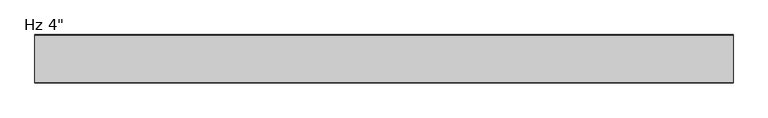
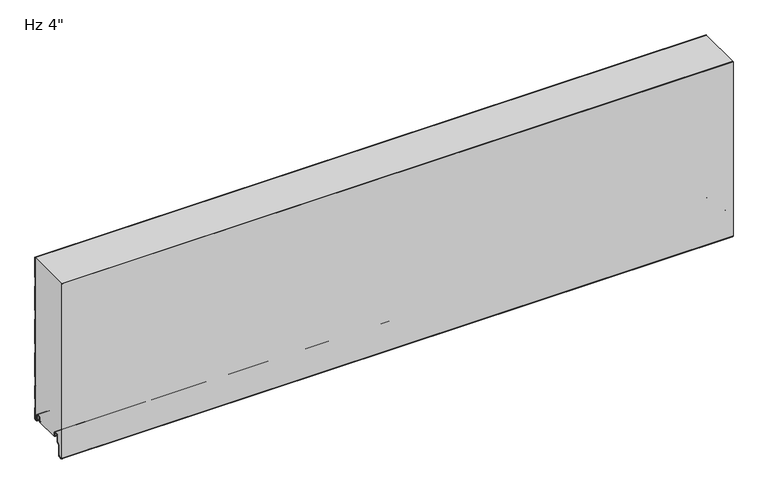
"""IFC4 building model written with IfcOpenShell, lengths in millimetres: plate geometry."""

from ifc_helpers import new_model, si_unit, point, frame, frame_2d, origin, place, context, project, spatial, polyline, circle_curve, trimmed, segment, composite_curve, outline, extrude, source, transform, mapped, element, save
from ifc_brep_helpers import plane_surface, cylinder_surface, revolved_surface, advanced_brep


def plate_74843514(model_context):
    return source(origin(), model_context, "Body", "SolidModel", [
        extrude(outline(composite_curve([segment(trimmed(circle_curve(frame_2d((-98.0297607, -32.4521176)), 3.5702393), [point((-97.7184903, -36.008762))], [point((-101.6, -32.4521154))], False, "CARTESIAN"), True, "CONTINUOUS"), segment(polyline([(-101.6, -32.4521154), (-101.5997439, 368.0), (-100.5993606, 368.0), (-100.5993606, -32.509446)]), True, "CONTINUOUS"), segment(trimmed(circle_curve(frame_2d((-98.0297607, -32.4521176)), 2.5702393), [point((-100.5993606, -32.509446))], [point((-97.8056751, -35.0125699))], True, "CARTESIAN"), True, "CONTINUOUS"), segment(polyline([(-97.8056751, -35.0125699), (-92.8238542, -34.5765709)]), True, "CONTINUOUS"), segment(trimmed(circle_curve(frame_2d((-93.3052448, -31.9198392)), 2.6999926), [point((-92.8238542, -34.5765709))], [point((-90.6052522, -31.9198392))], True, "CARTESIAN"), True, "CONTINUOUS"), segment(polyline([(-90.6052522, -31.9198392), (-90.6052522, -9.8247096), (-85.1031811, -4.3226385)]), True, "CONTINUOUS"), segment(trimmed(circle_curve(frame_2d((-86.3052588, -3.1205608)), 1.6999946), [point((-85.1031811, -4.3226385))], [point((-84.6052642, -3.1205608))], True, "CARTESIAN"), True, "CONTINUOUS"), segment(polyline([(-84.6052642, -3.1205608), (-84.6052642, 8.6903283)]), True, "CONTINUOUS"), segment(trimmed(circle_curve(frame_2d((-81.2552689, 8.6903283)), 3.3499953), [point((-84.6052642, 8.6903283))], [point((-81.2552689, 12.0403236))], False, "CARTESIAN"), True, "CONTINUOUS"), segment(polyline([(-81.2552689, 12.0403236), (-76.8552777, 12.0403236)]), True, "CONTINUOUS"), segment(trimmed(circle_curve(frame_2d((-76.8552777, 8.6903283)), 3.3499953), [point((-76.8552777, 12.0403236))], [point((-73.5052824, 8.6903283))], False, "CARTESIAN"), True, "CONTINUOUS"), segment(polyline([(-73.5052824, 8.6903283), (-73.5052824, 5.9912173), (-72.1068035, 5.9912173), (-72.1068035, 2.2328239)]), True, "CONTINUOUS"), segment(trimmed(circle_curve(frame_2d((-73.3068002, 2.2313092)), 1.1999976), [point((-72.1068035, 2.2328239))], [point((-73.2762782, 1.0316999))], False, "CARTESIAN"), True, "CONTINUOUS"), segment(trimmed(circle_curve(frame_2d((-73.3068002, 2.2313092)), 1.1999976), [point((-73.2762782, 1.0316999))], [point((-74.5052824, 2.1710221))], False, "CARTESIAN"), True, "CONTINUOUS"), segment(polyline([(-74.5052824, 2.1710221), (-74.5052824, 8.6903283)]), True, "CONTINUOUS"), segment(trimmed(circle_curve(frame_2d((-76.8552777, 8.6903283)), 2.3499953), [point((-74.5052824, 8.6903283))], [point((-76.8552777, 11.0403236))], True, "CARTESIAN"), True, "CONTINUOUS"), segment(polyline([(-76.8552777, 11.0403236), (-81.2552689, 11.0403236)]), True, "CONTINUOUS"), segment(trimmed(circle_curve(frame_2d((-81.2552689, 8.6903283)), 2.3499953), [point((-81.2552689, 11.0403236))], [point((-83.6052642, 8.6903283))], True, "CARTESIAN"), True, "CONTINUOUS"), segment(polyline([(-83.6052642, 8.6903283), (-83.6052642, -3.1205608)]), True, "CONTINUOUS"), segment(trimmed(circle_curve(frame_2d((-86.3052588, -3.1205608)), 2.6999946), [point((-83.6052642, -3.1205608))], [point((-84.3960743, -5.0297453))], False, "CARTESIAN"), True, "CONTINUOUS"), segment(polyline([(-84.3960743, -5.0297453), (-89.2244918, -9.8581627)]), True, "CONTINUOUS"), segment(trimmed(circle_curve(frame_2d((-88.3052548, -10.7773997)), 1.2999974), [point((-89.2244918, -9.8581627))], [point((-89.6052522, -10.7773997))], True, "CARTESIAN"), True, "CONTINUOUS"), segment(polyline([(-89.6052522, -10.7773997), (-89.6052522, -31.9198392)]), True, "CONTINUOUS"), segment(trimmed(circle_curve(frame_2d((-93.3052448, -31.9198392)), 3.6999926), [point((-89.6052522, -31.9198392))], [point((-92.6944437, -35.5690675))], False, "CARTESIAN"), True, "CONTINUOUS"), segment(polyline([(-92.6944437, -35.5690675), (-97.7184903, -36.008762)]), True, "CONTINUOUS")], self_intersect=False)), frame((-730.0, 0.0, 0.0), z_axis=(1.0, 0.0, 0.0), x_axis=(0.0, 1.0, 0.0)), (0.0, 0.0, 1.0), 1460.0),
        advanced_brep(
        [(-730.0, -17.0015159, 2.0313088), (-730.0, -18.0015191, 1.0313115), (-730.0, -19.0015105, 2.0313088), (-730.0, -19.0015105, 6.0315124), (-730.0, -18.0015159, 6.0315124), (-730.0, -18.0015159, 8.7237222), (-730.0, -14.7015202, 12.0237179), (-730.0, -10.301529, 12.0237179), (-730.0, -7.0015335, 8.7237224), (-730.0, -7.0015335, -1.6962565), (-730.0, -5.2315393, -3.4662507), (-730.0, -0.9999916, -3.4662507), (-730.0, -0.9999916, 21.034026), (-730.0, -2.2002307, 22.4196686), (-730.0, -2.2002307, 41.7948349), (-730.0, -1.0, 43.1804678), (-730.0, -1.0, 71.8338832), (-730.0, -2.2002307, 73.2195162), (-730.0, -2.2002307, 92.5946825), (-730.0, -1.0, 93.9803154), (-730.0, -1.0, 148.0337308), (-730.0, -2.2002307, 149.4193638), (-730.0, -2.2002307, 168.7945301), (-730.0, -1.0, 170.180163), (-730.0, -1.0, 224.2335784), (-730.0, -2.2002307, 225.6192114), (-730.0, -2.2002307, 244.9943777), (-730.0, -1.0, 246.3800106), (-730.0, -1.0, 300.433426), (-730.0, -2.2002307, 301.819059), (-730.0, -2.2002307, 321.1942253), (-730.0, -1.0, 322.5798582), (-730.0, -1.0, 368.0), (-730.0, 0.0, 368.0), (-730.0, 0.0, 322.7290094), (-730.0, -0.3417885, 321.8123925), (-730.0, -1.2002307, 320.8213449), (-730.0, -1.2002307, 302.1919394), (-730.0, -0.3417885, 301.2008918), (-730.0, 0.0, 300.2842749), (-730.0, 0.0, 246.5291618), (-730.0, -0.3417885, 245.6125449), (-730.0, -1.2002307, 244.6214973), (-730.0, -1.2002307, 225.9920918), (-730.0, -0.3417885, 225.0010442), (-730.0, 0.0, 224.0844273), (-730.0, 0.0, 170.3293142), (-730.0, -0.3417885, 169.4126973), (-730.0, -1.2002307, 168.4216497), (-730.0, -1.2002307, 149.7922442), (-730.0, -0.3417885, 148.8011966), (-730.0, 0.0, 147.8845797), (-730.0, 0.0, 94.1294666), (-730.0, -0.3417885, 93.2128497), (-730.0, -1.2002307, 92.2218021), (-730.0, -1.2002307, 73.5923966), (-730.0, -0.3417885, 72.601349), (-730.0, 0.0, 71.6847321), (-730.0, 0.0, 43.329619), (-730.0, -0.3417885, 42.4130021), (-730.0, -1.2002307, 41.4219545), (-730.0, -1.2002307, 22.792549), (-730.0, -0.3417885, 21.8015014), (-730.0, 0.0, 20.8847931), (-730.0, 8.4e-06, -3.0662545), (-730.0, -1.3999878, -4.4662507), (-730.0, -5.2315393, -4.4662507), (-730.0, -8.0015335, -1.6962565), (-730.0, -8.0015335, 8.7237224), (-730.0, -10.301529, 11.0237179), (-730.0, -14.7015202, 11.0237179), (-730.0, -17.0015159, 8.7237222), (730.0, -17.0015159, 2.0313088), (730.0, -17.0015159, 8.7237222), (730.0, -14.7015202, 11.0237179), (730.0, -10.301529, 11.0237179), (730.0, -8.0015335, 8.7237224), (730.0, -8.0015335, -1.6962565), (730.0, -5.2315393, -4.4662507), (730.0, -1.3999878, -4.4662507), (730.0, 8.4e-06, -3.0662545), (730.0, 8.4e-06, 20.8848845), (730.0, -0.3417885, 21.8015014), (730.0, -1.2002307, 22.792549), (730.0, -1.2002307, 41.4219545), (730.0, -0.3417885, 42.4130021), (730.0, 0.0, 43.329619), (730.0, 0.0, 71.6847321), (730.0, -0.3417885, 72.601349), (730.0, -1.2002307, 73.5923966), (730.0, -1.2002307, 92.2218021), (730.0, -0.3417885, 93.2128497), (730.0, 0.0, 94.1294666), (730.0, 0.0, 147.8845797), (730.0, -0.3417885, 148.8011966), (730.0, -1.2002307, 149.7922442), (730.0, -1.2002307, 168.4216497), (730.0, -0.3417885, 169.4126973), (730.0, 0.0, 170.3293142), (730.0, 0.0, 224.0844273), (730.0, -0.3417885, 225.0010442), (730.0, -1.2002307, 225.9920918), (730.0, -1.2002307, 244.6214973), (730.0, -0.3417885, 245.6125449), (730.0, 0.0, 246.5291618), (730.0, 0.0, 300.2842749), (730.0, -0.3417885, 301.2008918), (730.0, -1.2002307, 302.1919394), (730.0, -1.2002307, 320.8213449), (730.0, -0.3417885, 321.8123925), (730.0, 0.0, 322.7290094), (730.0, 0.0, 368.0), (730.0, -1.0, 368.0), (730.0, -1.0, 322.5798582), (730.0, -2.2002307, 321.1942253), (730.0, -2.2002307, 301.819059), (730.0, -1.0, 300.433426), (730.0, -1.0, 246.3800106), (730.0, -2.2002307, 244.9943777), (730.0, -2.2002307, 225.6192114), (730.0, -1.0, 224.2335784), (730.0, -1.0, 170.180163), (730.0, -2.2002307, 168.7945301), (730.0, -2.2002307, 149.4193638), (730.0, -1.0, 148.0337308), (730.0, -1.0, 93.9803154), (730.0, -2.2002307, 92.5946825), (730.0, -2.2002307, 73.2195162), (730.0, -1.0, 71.8338832), (730.0, -1.0, 43.1804678), (730.0, -2.2002307, 41.7948349), (730.0, -2.2002307, 22.4196686), (730.0, -0.9999916, 21.034026), (730.0, -0.9999916, -3.4662507), (730.0, -5.2315393, -3.4662507), (730.0, -7.0015335, -1.6962565), (730.0, -7.0015335, 8.7237224), (730.0, -10.301529, 12.0237179), (730.0, -14.7015202, 12.0237179), (730.0, -18.0015159, 8.7237222), (730.0, -18.0015159, 6.0315124), (730.0, -19.0015105, 6.0315124), (730.0, -19.0015105, 2.0313088), (730.0, -18.0015192, 1.0313116)],
        [
            (0, 1, circle_curve(frame((-730.0, -18.0015132, 2.0313088), z_axis=(-1.0, 0.0, 0.0), x_axis=(0.0, 0.0, 1.0)), 0.9999973)),
            (1, 2, circle_curve(frame((-730.0, -18.0015133, 2.0313088), z_axis=(-1.0, 0.0, 0.0), x_axis=(0.0, 0.0, 1.0)), 0.9999972)),
            (2, 3),
            (3, 4),
            (4, 5),
            (5, 6, circle_curve(frame((-730.0, -14.7015202, 8.7237222), z_axis=(-1.0, 0.0, 0.0), x_axis=(0.0, 0.0, 1.0)), 3.2999957)),
            (6, 7),
            (7, 8, circle_curve(frame((-730.0, -10.301529, 8.7237224), z_axis=(-1.0, 0.0, 0.0), x_axis=(0.0, 0.0, 1.0)), 3.2999955)),
            (8, 9),
            (9, 10, circle_curve(frame((-730.0, -5.2315393, -1.6962565), z_axis=(1.0, 0.0, 0.0), x_axis=(0.0, 0.0, 1.0)), 1.7699942)),
            (10, 11),
            (11, 12),
            (12, 13),
            (13, 14),
            (14, 15),
            (15, 16),
            (16, 17),
            (17, 18),
            (18, 19),
            (19, 20),
            (20, 21),
            (21, 22),
            (22, 23),
            (23, 24),
            (24, 25),
            (25, 26),
            (26, 27),
            (27, 28),
            (28, 29),
            (29, 30),
            (30, 31),
            (31, 32),
            (32, 33),
            (33, 34),
            (34, 35, circle_curve(frame((-730.0, -1.3999972, 322.7290094), z_axis=(-1.0, 0.0, 0.0), x_axis=(0.0, 0.0, 1.0)), 1.3999972)),
            (35, 36),
            (36, 37),
            (37, 38),
            (38, 39, circle_curve(frame((-730.0, -1.3999972, 300.2842749), z_axis=(-1.0, 0.0, 0.0), x_axis=(0.0, 0.0, 1.0)), 1.3999972)),
            (39, 40),
            (40, 41, circle_curve(frame((-730.0, -1.3999972, 246.5291618), z_axis=(-1.0, 0.0, 0.0), x_axis=(0.0, 0.0, 1.0)), 1.3999972)),
            (41, 42),
            (42, 43),
            (43, 44),
            (44, 45, circle_curve(frame((-730.0, -1.3999972, 224.0844273), z_axis=(-1.0, 0.0, 0.0), x_axis=(0.0, 0.0, 1.0)), 1.3999972)),
            (45, 46),
            (46, 47, circle_curve(frame((-730.0, -1.3999972, 170.3293142), z_axis=(-1.0, 0.0, 0.0), x_axis=(0.0, 0.0, 1.0)), 1.3999972)),
            (47, 48),
            (48, 49),
            (49, 50),
            (50, 51, circle_curve(frame((-730.0, -1.3999972, 147.8845797), z_axis=(-1.0, 0.0, 0.0), x_axis=(0.0, 0.0, 1.0)), 1.3999972)),
            (51, 52),
            (52, 53, circle_curve(frame((-730.0, -1.3999972, 94.1294666), z_axis=(-1.0, 0.0, 0.0), x_axis=(0.0, 0.0, 1.0)), 1.3999972)),
            (53, 54),
            (54, 55),
            (55, 56),
            (56, 57, circle_curve(frame((-730.0, -1.3999972, 71.6847321), z_axis=(-1.0, 0.0, 0.0), x_axis=(0.0, 0.0, 1.0)), 1.3999972)),
            (57, 58),
            (58, 59, circle_curve(frame((-730.0, -1.3999972, 43.329619), z_axis=(-1.0, 0.0, 0.0), x_axis=(0.0, 0.0, 1.0)), 1.3999972)),
            (59, 60),
            (60, 61),
            (61, 62),
            (62, 63, circle_curve(frame((-730.0, -1.3999972, 20.8848845), z_axis=(-1.0, 0.0, 0.0), x_axis=(0.0, 0.0, 1.0)), 1.3999972)),
            (63, 64),
            (64, 65, circle_curve(frame((-730.0, -1.3999878, -3.0662545), z_axis=(-1.0, 0.0, 0.0), x_axis=(0.0, 0.0, 1.0)), 1.3999962)),
            (65, 66),
            (66, 67, circle_curve(frame((-730.0, -5.2315393, -1.6962565), z_axis=(-1.0, 0.0, 0.0), x_axis=(0.0, 0.0, 1.0)), 2.7699942)),
            (67, 68),
            (68, 69, circle_curve(frame((-730.0, -10.301529, 8.7237224), z_axis=(1.0, 0.0, 0.0), x_axis=(0.0, 0.0, 1.0)), 2.2999955)),
            (69, 70),
            (70, 71, circle_curve(frame((-730.0, -14.7015202, 8.7237222), z_axis=(1.0, 0.0, 0.0), x_axis=(0.0, 0.0, 1.0)), 2.2999957)),
            (71, 0),
            (72, 73),
            (73, 74, circle_curve(frame((730.0, -14.7015202, 8.7237222), z_axis=(-1.0, 0.0, 0.0), x_axis=(0.0, 0.0, 1.0)), 2.2999957)),
            (74, 75),
            (75, 76, circle_curve(frame((730.0, -10.301529, 8.7237224), z_axis=(-1.0, 0.0, 0.0), x_axis=(0.0, 0.0, 1.0)), 2.2999955)),
            (76, 77),
            (77, 78, circle_curve(frame((730.0, -5.2315393, -1.6962565), z_axis=(1.0, 0.0, 0.0), x_axis=(0.0, 0.0, 1.0)), 2.7699942)),
            (78, 79),
            (79, 80, circle_curve(frame((730.0, -1.3999878, -3.0662545), z_axis=(1.0, 0.0, 0.0), x_axis=(0.0, 0.0, 1.0)), 1.3999962)),
            (80, 81),
            (81, 82, circle_curve(frame((730.0, -1.3999972, 20.8848845), z_axis=(1.0, 0.0, 0.0), x_axis=(0.0, 0.0, 1.0)), 1.3999972)),
            (82, 83),
            (83, 84),
            (84, 85),
            (85, 86, circle_curve(frame((730.0, -1.3999972, 43.329619), z_axis=(1.0, 0.0, 0.0), x_axis=(0.0, 0.0, 1.0)), 1.3999972)),
            (86, 87),
            (87, 88, circle_curve(frame((730.0, -1.3999972, 71.6847321), z_axis=(1.0, 0.0, 0.0), x_axis=(0.0, 0.0, 1.0)), 1.3999972)),
            (88, 89),
            (89, 90),
            (90, 91),
            (91, 92, circle_curve(frame((730.0, -1.3999972, 94.1294666), z_axis=(1.0, 0.0, 0.0), x_axis=(0.0, 0.0, 1.0)), 1.3999972)),
            (92, 93),
            (93, 94, circle_curve(frame((730.0, -1.3999972, 147.8845797), z_axis=(1.0, 0.0, 0.0), x_axis=(0.0, 0.0, 1.0)), 1.3999972)),
            (94, 95),
            (95, 96),
            (96, 97),
            (97, 98, circle_curve(frame((730.0, -1.3999972, 170.3293142), z_axis=(1.0, 0.0, 0.0), x_axis=(0.0, 0.0, 1.0)), 1.3999972)),
            (98, 99),
            (99, 100, circle_curve(frame((730.0, -1.3999972, 224.0844273), z_axis=(1.0, 0.0, 0.0), x_axis=(0.0, 0.0, 1.0)), 1.3999972)),
            (100, 101),
            (101, 102),
            (102, 103),
            (103, 104, circle_curve(frame((730.0, -1.3999972, 246.5291618), z_axis=(1.0, 0.0, 0.0), x_axis=(0.0, 0.0, 1.0)), 1.3999972)),
            (104, 105),
            (105, 106, circle_curve(frame((730.0, -1.3999972, 300.2842749), z_axis=(1.0, 0.0, 0.0), x_axis=(0.0, 0.0, 1.0)), 1.3999972)),
            (106, 107),
            (107, 108),
            (108, 109),
            (109, 110, circle_curve(frame((730.0, -1.3999972, 322.7290094), z_axis=(1.0, 0.0, 0.0), x_axis=(0.0, 0.0, 1.0)), 1.3999972)),
            (110, 111),
            (111, 112),
            (112, 113),
            (113, 114),
            (114, 115),
            (115, 116),
            (116, 117),
            (117, 118),
            (118, 119),
            (119, 120),
            (120, 121),
            (121, 122),
            (122, 123),
            (123, 124),
            (124, 125),
            (125, 126),
            (126, 127),
            (127, 128),
            (128, 129),
            (129, 130),
            (130, 131),
            (131, 132),
            (132, 133),
            (133, 134),
            (134, 135, circle_curve(frame((730.0, -5.2315393, -1.6962565), z_axis=(-1.0, 0.0, 0.0), x_axis=(0.0, 0.0, 1.0)), 1.7699942)),
            (135, 136),
            (136, 137, circle_curve(frame((730.0, -10.301529, 8.7237224), z_axis=(1.0, 0.0, 0.0), x_axis=(0.0, 0.0, 1.0)), 3.2999955)),
            (137, 138),
            (138, 139, circle_curve(frame((730.0, -14.7015202, 8.7237222), z_axis=(1.0, 0.0, 0.0), x_axis=(0.0, 0.0, 1.0)), 3.2999957)),
            (139, 140),
            (140, 141),
            (141, 142),
            (142, 143, circle_curve(frame((730.0, -18.0015133, 2.0313088), z_axis=(1.0, 0.0, 0.0), x_axis=(0.0, 0.0, 1.0)), 0.9999972)),
            (143, 72, circle_curve(frame((730.0, -18.0015132, 2.0313088), z_axis=(1.0, 0.0, 0.0), x_axis=(0.0, 0.0, 1.0)), 0.9999973)),
            (32, 112),
            (111, 33),
            (67, 77),
            (76, 68),
            (0, 72),
            (143, 1),
            (71, 73),
            (70, 74),
            (75, 69),
            (65, 79),
            (78, 66),
            (64, 80),
            (63, 81),
            (2, 142),
            (141, 3),
            (56, 88),
            (87, 57),
            (61, 83),
            (82, 62),
            (60, 84),
            (58, 86),
            (85, 59),
            (50, 94),
            (93, 51),
            (54, 90),
            (89, 55),
            (52, 92),
            (91, 53),
            (44, 100),
            (99, 45),
            (48, 96),
            (95, 49),
            (46, 98),
            (97, 47),
            (38, 106),
            (105, 39),
            (42, 102),
            (101, 43),
            (40, 104),
            (103, 41),
            (36, 108),
            (107, 37),
            (34, 110),
            (109, 35),
            (27, 117),
            (116, 28),
            (115, 29),
            (114, 30),
            (113, 31),
            (26, 118),
            (25, 119),
            (24, 120),
            (23, 121),
            (22, 122),
            (21, 123),
            (20, 124),
            (19, 125),
            (18, 126),
            (17, 127),
            (16, 128),
            (15, 129),
            (14, 130),
            (140, 4),
            (139, 5),
            (138, 6),
            (137, 7),
            (136, 8),
            (135, 9),
            (12, 132),
            (131, 13),
            (11, 133),
            (10, 134),
        ],
        [
            plane_surface(frame((-730.0, 0.0, 508.0), z_axis=(-1.0, 0.0, 0.0), x_axis=(0.0, 1.0, 0.0))),
            plane_surface(frame((730.0, 0.0, 508.0), z_axis=(1.0, 0.0, 0.0), x_axis=(0.0, 1.0, 0.0))),
            plane_surface(frame((730.0, 10.0, 368.0), z_axis=(0.0, 0.0, 1.0), x_axis=(-1.0, 0.0, 0.0))),
            plane_surface(frame((-730.0, -8.0015335, 8.7237224), z_axis=(0.0, -1.0, 0.0), x_axis=(1.0, 0.0, 0.0))),
            cylinder_surface(frame((-730.0, -18.0015132, 2.0313088), z_axis=(-1.0, 0.0, 0.0), x_axis=(0.0, 0.0, 1.0)), 0.9999973),
            plane_surface(frame((-730.0, -17.0015159, 2.0313088), z_axis=(0.0, 1.0, 0.0), x_axis=(1.0, 0.0, 0.0))),
            revolved_surface(polyline([(730.0, -14.7015202, 11.0237179), (-730.0, -14.7015202, 11.0237179)]), (-730.0, -14.7015202, 8.7237222), (1.0, 0.0, 0.0)),
            revolved_surface(polyline([(730.0, -10.301529, 11.0237179), (-730.0, -10.301529, 11.0237179)]), (-730.0, -10.301529, 8.7237224), (1.0, 0.0, 0.0)),
            plane_surface(frame((-730.0, -14.7015202, 11.0237179), z_axis=(0.0, 0.0, -1.0), x_axis=(1.0, 0.0, 0.0))),
            plane_surface(frame((-730.0, -5.2315393, -4.4662507), z_axis=(0.0, 0.0, -1.0), x_axis=(1.0, 0.0, 0.0))),
            cylinder_surface(frame((-730.0, -1.3999878, -3.0662545), z_axis=(-1.0, 0.0, 0.0), x_axis=(0.0, 0.0, 1.0)), 1.3999962),
            cylinder_surface(frame((-730.0, -5.2315393, -1.6962565), z_axis=(-1.0, 0.0, 0.0), x_axis=(0.0, 0.0, 1.0)), 2.7699942),
            plane_surface(frame((-730.0, 8.4e-06, -3.0662545), z_axis=(0.0, 1.0, 0.0), x_axis=(1.0, 0.0, 0.0))),
            plane_surface(frame((-730.0, -19.0015105, 6.0315124), z_axis=(0.0, -1.0, 0.0), x_axis=(1.0, 0.0, 0.0))),
            cylinder_surface(frame((-730.0, -18.0015133, 2.0313088), z_axis=(-1.0, 0.0, 0.0), x_axis=(0.0, 0.0, 1.0)), 0.9999972),
            cylinder_surface(frame((-730.0, -1.3999972, 71.6847321), z_axis=(-1.0, 0.0, 0.0), x_axis=(0.0, 0.0, 1.0)), 1.3999972),
            plane_surface(frame((-730.0, -0.3417885, 21.8015014), z_axis=(0.0, 0.755864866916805, 0.6547276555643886), x_axis=(1.0, 0.0, 0.0))),
            plane_surface(frame((-730.0, -1.2002307, 32.1072517), z_axis=(0.0, 1.0, 0.0), x_axis=(1.0, 0.0, 0.0))),
            cylinder_surface(frame((-730.0, -1.3999972, 20.8848845), z_axis=(-1.0, 0.0, 0.0), x_axis=(0.0, 0.0, 1.0)), 1.3999972),
            cylinder_surface(frame((-730.0, -1.3999972, 43.329619), z_axis=(-1.0, 0.0, 0.0), x_axis=(0.0, 0.0, 1.0)), 1.3999972),
            plane_surface(frame((-730.0, -1.2002307, 41.4219545), z_axis=(0.0, 0.755864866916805, -0.6547276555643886), x_axis=(1.0, 0.0, 0.0))),
            cylinder_surface(frame((-730.0, -1.3999972, 147.8845797), z_axis=(-1.0, 0.0, 0.0), x_axis=(0.0, 0.0, 1.0)), 1.3999972),
            plane_surface(frame((-730.0, -1.2002307, 82.9070993), z_axis=(0.0, 1.0, 0.0), x_axis=(1.0, 0.0, 0.0))),
            cylinder_surface(frame((-730.0, -1.3999972, 94.1294666), z_axis=(-1.0, 0.0, 0.0), x_axis=(0.0, 0.0, 1.0)), 1.3999972),
            plane_surface(frame((-730.0, -0.3417885, 72.601349), z_axis=(0.0, 0.755864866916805, 0.6547276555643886), x_axis=(1.0, 0.0, 0.0))),
            plane_surface(frame((-730.0, -1.2002307, 92.2218021), z_axis=(0.0, 0.755864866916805, -0.6547276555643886), x_axis=(1.0, 0.0, 0.0))),
            plane_surface(frame((-730.0, 0.0, 43.329619), z_axis=(0.0, 1.0, 0.0), x_axis=(1.0, 0.0, 0.0))),
            cylinder_surface(frame((-730.0, -1.3999972, 224.0844273), z_axis=(-1.0, 0.0, 0.0), x_axis=(0.0, 0.0, 1.0)), 1.3999972),
            plane_surface(frame((-730.0, -1.2002307, 159.1069469), z_axis=(0.0, 1.0, 0.0), x_axis=(1.0, 0.0, 0.0))),
            cylinder_surface(frame((-730.0, -1.3999972, 170.3293142), z_axis=(-1.0, 0.0, 0.0), x_axis=(0.0, 0.0, 1.0)), 1.3999972),
            plane_surface(frame((-730.0, -0.3417885, 148.8011966), z_axis=(0.0, 0.755864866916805, 0.6547276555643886), x_axis=(1.0, 0.0, 0.0))),
            plane_surface(frame((-730.0, -1.2002307, 168.4216497), z_axis=(0.0, 0.755864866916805, -0.6547276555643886), x_axis=(1.0, 0.0, 0.0))),
            plane_surface(frame((-730.0, 0.0, 94.1294666), z_axis=(0.0, 1.0, 0.0), x_axis=(1.0, 0.0, 0.0))),
            cylinder_surface(frame((-730.0, -1.3999972, 300.2842749), z_axis=(-1.0, 0.0, 0.0), x_axis=(0.0, 0.0, 1.0)), 1.3999972),
            plane_surface(frame((-730.0, -1.2002307, 235.3067945), z_axis=(0.0, 1.0, 0.0), x_axis=(1.0, 0.0, 0.0))),
            cylinder_surface(frame((-730.0, -1.3999972, 246.5291618), z_axis=(-1.0, 0.0, 0.0), x_axis=(0.0, 0.0, 1.0)), 1.3999972),
            plane_surface(frame((-730.0, -0.3417885, 225.0010442), z_axis=(0.0, 0.755864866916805, 0.6547276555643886), x_axis=(1.0, 0.0, 0.0))),
            plane_surface(frame((-730.0, -1.2002307, 244.6214973), z_axis=(0.0, 0.755864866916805, -0.6547276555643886), x_axis=(1.0, 0.0, 0.0))),
            plane_surface(frame((-730.0, 0.0, 170.3293142), z_axis=(0.0, 1.0, 0.0), x_axis=(1.0, 0.0, 0.0))),
            plane_surface(frame((-730.0, -1.2002307, 311.5066421), z_axis=(0.0, 1.0, 0.0), x_axis=(1.0, 0.0, 0.0))),
            cylinder_surface(frame((-730.0, -1.3999972, 322.7290094), z_axis=(-1.0, 0.0, 0.0), x_axis=(0.0, 0.0, 1.0)), 1.3999972),
            plane_surface(frame((-730.0, -0.3417885, 301.2008918), z_axis=(0.0, 0.755864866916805, 0.6547276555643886), x_axis=(1.0, 0.0, 0.0))),
            plane_surface(frame((-730.0, -1.2002307, 320.8213449), z_axis=(0.0, 0.755864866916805, -0.6547276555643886), x_axis=(1.0, 0.0, 0.0))),
            plane_surface(frame((-730.0, 0.0, 246.5291618), z_axis=(0.0, 1.0, 0.0), x_axis=(1.0, 0.0, 0.0))),
            plane_surface(frame((-730.0, 0.0, 322.7290094), z_axis=(0.0, 1.0, 0.0), x_axis=(1.0, 0.0, 0.0))),
            plane_surface(frame((-730.0, -1.0, 300.433426), z_axis=(0.0, -1.0, 0.0), x_axis=(1.0, 0.0, 0.0))),
            plane_surface(frame((-730.0, -2.2002307, 301.819059), z_axis=(0.0, -0.755864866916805, -0.6547276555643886), x_axis=(1.0, 0.0, 0.0))),
            plane_surface(frame((-730.0, -2.2002307, 321.1942253), z_axis=(0.0, -1.0, 0.0), x_axis=(1.0, 0.0, 0.0))),
            plane_surface(frame((-730.0, -1.0, 322.5798582), z_axis=(0.0, -0.755864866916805, 0.6547276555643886), x_axis=(1.0, 0.0, 0.0))),
            plane_surface(frame((-730.0, -1.0, 376.6332736), z_axis=(0.0, -1.0, 0.0), x_axis=(1.0, 0.0, 0.0))),
            plane_surface(frame((-730.0, -1.0, 246.3800106), z_axis=(0.0, -0.755864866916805, 0.6547276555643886), x_axis=(1.0, 0.0, 0.0))),
            plane_surface(frame((-730.0, -2.2002307, 244.9943777), z_axis=(0.0, -1.0, 0.0), x_axis=(1.0, 0.0, 0.0))),
            plane_surface(frame((-730.0, -2.2002307, 225.6192114), z_axis=(0.0, -0.755864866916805, -0.6547276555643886), x_axis=(1.0, 0.0, 0.0))),
            plane_surface(frame((-730.0, -1.0, 224.2335784), z_axis=(0.0, -1.0, 0.0), x_axis=(1.0, 0.0, 0.0))),
            plane_surface(frame((-730.0, -1.0, 170.180163), z_axis=(0.0, -0.755864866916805, 0.6547276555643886), x_axis=(1.0, 0.0, 0.0))),
            plane_surface(frame((-730.0, -2.2002307, 168.7945301), z_axis=(0.0, -1.0, 0.0), x_axis=(1.0, 0.0, 0.0))),
            plane_surface(frame((-730.0, -2.2002307, 149.4193638), z_axis=(0.0, -0.755864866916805, -0.6547276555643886), x_axis=(1.0, 0.0, 0.0))),
            plane_surface(frame((-730.0, -1.0, 148.0337308), z_axis=(0.0, -1.0, 0.0), x_axis=(1.0, 0.0, 0.0))),
            plane_surface(frame((-730.0, -1.0, 93.9803154), z_axis=(0.0, -0.755864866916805, 0.6547276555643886), x_axis=(1.0, 0.0, 0.0))),
            plane_surface(frame((-730.0, -2.2002307, 92.5946825), z_axis=(0.0, -1.0, 0.0), x_axis=(1.0, 0.0, 0.0))),
            plane_surface(frame((-730.0, -2.2002307, 73.2195162), z_axis=(0.0, -0.755864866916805, -0.6547276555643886), x_axis=(1.0, 0.0, 0.0))),
            plane_surface(frame((-730.0, -1.0, 71.8338832), z_axis=(0.0, -1.0, 0.0), x_axis=(1.0, 0.0, 0.0))),
            plane_surface(frame((-730.0, -1.0, 43.1804678), z_axis=(0.0, -0.755864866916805, 0.6547276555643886), x_axis=(1.0, 0.0, 0.0))),
            plane_surface(frame((-730.0, -18.0015159, 6.0315124), z_axis=(0.0, 0.0, 1.0), x_axis=(1.0, 0.0, 0.0))),
            plane_surface(frame((-730.0, -18.0015159, 8.7237222), z_axis=(0.0, -1.0, 0.0), x_axis=(1.0, 0.0, 0.0))),
            cylinder_surface(frame((-730.0, -14.7015202, 8.7237222), z_axis=(-1.0, 0.0, 0.0), x_axis=(0.0, 0.0, 1.0)), 3.2999957),
            plane_surface(frame((-730.0, -10.301529, 12.0237179), z_axis=(0.0, 0.0, 1.0), x_axis=(1.0, 0.0, 0.0))),
            cylinder_surface(frame((-730.0, -10.301529, 8.7237224), z_axis=(-1.0, 0.0, 0.0), x_axis=(0.0, 0.0, 1.0)), 3.2999955),
            plane_surface(frame((-730.0, -7.0015335, -1.6962565), z_axis=(0.0, 1.0, 0.0), x_axis=(1.0, 0.0, 0.0))),
            plane_surface(frame((-730.0, -2.2002307, 22.4196686), z_axis=(0.0, -0.755864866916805, -0.6547276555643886), x_axis=(1.0, 0.0, 0.0))),
            plane_surface(frame((-730.0, -2.2002307, 41.7948349), z_axis=(0.0, -1.0, 0.0), x_axis=(1.0, 0.0, 0.0))),
            plane_surface(frame((-730.0, -0.9999916, 21.034026), z_axis=(0.0, -1.0, 0.0), x_axis=(1.0, 0.0, 0.0))),
            plane_surface(frame((-730.0, -0.9999916, -3.4662507), z_axis=(0.0, 0.0, 1.0), x_axis=(1.0, 0.0, 0.0))),
            revolved_surface(polyline([(730.0, -5.2315393, 0.0737376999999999), (-730.0, -5.2315393, 0.0737376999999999)]), (-730.0, -5.2315393, -1.6962565), (1.0, 0.0, 0.0)),
        ],
        [
            (0, [[1, 2, 3, 4, 5, 6, 7, 8, 9, 10, 11, 12, 13, 14, 15, 16, 17, 18, 19, 20, 21, 22, 23, 24, 25, 26, 27, 28, 29, 30, 31, 32, 33, 34, 35, 36, 37, 38, 39, 40, 41, 42, 43, 44, 45, 46, 47, 48, 49, 50, 51, 52, 53, 54, 55, 56, 57, 58, 59, 60, 61, 62, 63, 64, 65, 66, 67, 68, 69, 70, 71, 72]]),
            (1, [[73, 74, 75, 76, 77, 78, 79, 80, 81, 82, 83, 84, 85, 86, 87, 88, 89, 90, 91, 92, 93, 94, 95, 96, 97, 98, 99, 100, 101, 102, 103, 104, 105, 106, 107, 108, 109, 110, 111, 112, 113, 114, 115, 116, 117, 118, 119, 120, 121, 122, 123, 124, 125, 126, 127, 128, 129, 130, 131, 132, 133, 134, 135, 136, 137, 138, 139, 140, 141, 142, 143, 144]]),
            (2, [[145, -112, 146, -33]]),
            (3, [[147, -77, 148, -68]]),
            (4, [[149, -144, 150, -1]]),
            (5, [[151, -73, -149, -72]]),
            (6, [[152, -74, -151, -71]]),
            (7, [[-148, -76, 153, -69]]),
            (8, [[-153, -75, -152, -70]]),
            (9, [[154, -79, 155, -66]]),
            (10, [[156, -80, -154, -65]]),
            (11, [[-155, -78, -147, -67]]),
            (12, [[157, -81, -156, -64]]),
            (13, [[158, -142, 159, -3]]),
            (14, [[-150, -143, -158, -2]]),
            (15, [[160, -88, 161, -57]]),
            (16, [[162, -83, 163, -62]]),
            (17, [[164, -84, -162, -61]]),
            (18, [[-163, -82, -157, -63]]),
            (19, [[165, -86, 166, -59]]),
            (20, [[-166, -85, -164, -60]]),
            (21, [[167, -94, 168, -51]]),
            (22, [[169, -90, 170, -55]]),
            (23, [[171, -92, 172, -53]]),
            (24, [[-170, -89, -160, -56]]),
            (25, [[-172, -91, -169, -54]]),
            (26, [[-161, -87, -165, -58]]),
            (27, [[173, -100, 174, -45]]),
            (28, [[175, -96, 176, -49]]),
            (29, [[177, -98, 178, -47]]),
            (30, [[-176, -95, -167, -50]]),
            (31, [[-178, -97, -175, -48]]),
            (32, [[-168, -93, -171, -52]]),
            (33, [[179, -106, 180, -39]]),
            (34, [[181, -102, 182, -43]]),
            (35, [[183, -104, 184, -41]]),
            (36, [[-182, -101, -173, -44]]),
            (37, [[-184, -103, -181, -42]]),
            (38, [[-174, -99, -177, -46]]),
            (39, [[185, -108, 186, -37]]),
            (40, [[187, -110, 188, -35]]),
            (41, [[-186, -107, -179, -38]]),
            (42, [[-188, -109, -185, -36]]),
            (43, [[-180, -105, -183, -40]]),
            (44, [[-34, -146, -111, -187]]),
            (45, [[189, -117, 190, -28]]),
            (46, [[-190, -116, 191, -29]]),
            (47, [[-191, -115, 192, -30]]),
            (48, [[-192, -114, 193, -31]]),
            (49, [[-113, -145, -32, -193]]),
            (50, [[194, -118, -189, -27]]),
            (51, [[195, -119, -194, -26]]),
            (52, [[196, -120, -195, -25]]),
            (53, [[197, -121, -196, -24]]),
            (54, [[198, -122, -197, -23]]),
            (55, [[199, -123, -198, -22]]),
            (56, [[200, -124, -199, -21]]),
            (57, [[201, -125, -200, -20]]),
            (58, [[202, -126, -201, -19]]),
            (59, [[203, -127, -202, -18]]),
            (60, [[204, -128, -203, -17]]),
            (61, [[205, -129, -204, -16]]),
            (62, [[206, -130, -205, -15]]),
            (63, [[-159, -141, 207, -4]]),
            (64, [[-207, -140, 208, -5]]),
            (65, [[-208, -139, 209, -6]]),
            (66, [[-209, -138, 210, -7]]),
            (67, [[-210, -137, 211, -8]]),
            (68, [[-211, -136, 212, -9]]),
            (69, [[213, -132, 214, -13]]),
            (70, [[-214, -131, -206, -14]]),
            (71, [[215, -133, -213, -12]]),
            (72, [[216, -134, -215, -11]]),
            (73, [[-212, -135, -216, -10]]),
        ],
    ),
        advanced_brep(
        [(-730.0, -73.270875, 1.0316999), (-730.0, -72.1014003, 2.2328239), (-730.0, -72.1014003, 5.9912173), (-730.0, -73.4998791, 5.9912173), (-730.0, -73.4998791, 8.6903283), (-730.0, -76.8498744, 12.0403236), (-730.0, -81.2498656, 12.0403236), (-730.0, -84.5998609, 8.6903283), (-730.0, -84.5998609, -3.1205608), (-730.0, -85.0977778, -4.3226385), (-730.0, -90.5998489, -9.8247096), (-730.0, -90.5998489, -31.9198392), (-730.0, -92.8184509, -34.5765709), (-730.0, -97.8002718, -35.0125699), (-730.0, -100.5945967, -32.4521176), (-730.0, -100.6, 368.0), (-730.0, -1.0, 368.0), (-730.0, -1.0, 322.5798583), (-730.0, -2.2002307, 321.1942253), (-730.0, -2.2002307, 301.819059), (-730.0, -1.0, 300.4334261), (-730.0, -1.0, 246.3800107), (-730.0, -2.2002307, 244.9943777), (-730.0, -2.2002307, 225.6192114), (-730.0, -1.0, 224.2335785), (-730.0, -1.0, 170.1801631), (-730.0, -2.2002307, 168.7945301), (-730.0, -2.2002307, 149.4193638), (-730.0, -1.0, 148.0337309), (-730.0, -1.0, 93.9803155), (-730.0, -2.2002307, 92.5946825), (-730.0, -2.2002307, 73.2195162), (-730.0, -1.0, 71.8338833), (-730.0, -1.0, 43.1804679), (-730.0, -2.2002307, 41.7948349), (-730.0, -2.2002307, 22.4196686), (-730.0, -0.9999916, 21.034026), (-730.0, -0.9999916, -3.4662506), (-730.0, -5.2315389, -3.4662506), (-730.0, -7.0015331, -1.6962564), (-730.0, -7.0015331, 8.7237221), (-730.0, -10.301529, 12.023718), (-730.0, -14.7015202, 12.023718), (-730.0, -18.0015159, 8.7237223), (-730.0, -18.0015159, 6.0315125), (-730.0, -19.0015105, 6.0315125), (-730.0, -19.0015105, 2.0313088), (-730.0, -18.0015192, 1.0313116), (-730.0, -19.0328308, 0.0), (-730.0, -72.2391751, 0.0), (730.0, -73.270875, 1.0316999), (730.0, -72.2391751, 0.0), (730.0, -19.0328308, 0.0), (730.0, -18.0015192, 1.0313116), (730.0, -19.0015105, 2.0313088), (730.0, -19.0015105, 6.0315125), (730.0, -18.0015159, 6.0315125), (730.0, -18.0015159, 8.7237223), (730.0, -14.7015202, 12.023718), (730.0, -10.301529, 12.023718), (730.0, -7.0015331, 8.7237221), (730.0, -7.0015331, -1.6962564), (730.0, -5.2315389, -3.4662506), (730.0, -0.9999916, -3.4662506), (730.0, -0.9999916, 21.034026), (730.0, -2.2002307, 22.4196686), (730.0, -2.2002307, 41.7948349), (730.0, -1.0, 43.1804679), (730.0, -1.0, 71.8338833), (730.0, -2.2002307, 73.2195162), (730.0, -2.2002307, 92.5946825), (730.0, -1.0, 93.9803155), (730.0, -1.0, 148.0337309), (730.0, -2.2002307, 149.4193638), (730.0, -2.2002307, 168.7945301), (730.0, -1.0, 170.1801631), (730.0, -1.0, 224.2335785), (730.0, -2.2002307, 225.6192114), (730.0, -2.2002307, 244.9943777), (730.0, -1.0, 246.3800107), (730.0, -1.0, 300.4334261), (730.0, -2.2002307, 301.819059), (730.0, -2.2002307, 321.1942253), (730.0, -1.0, 322.5798583), (730.0, -1.0, 368.0), (730.0, -100.6, 368.0), (730.0, -100.6, -32.4521176), (730.0, -97.8002718, -35.0125699), (730.0, -92.8184509, -34.5765709), (730.0, -90.5998489, -31.9198392), (730.0, -90.5998489, -9.8247096), (730.0, -85.0977778, -4.3226385), (730.0, -84.5998609, -3.1205608), (730.0, -84.5998609, 8.6903283), (730.0, -81.2498656, 12.0403236), (730.0, -76.8498744, 12.0403236), (730.0, -73.4998791, 8.6903283), (730.0, -73.4998791, 5.9912173), (730.0, -72.1014003, 5.9912173), (730.0, -72.1014003, 2.2328239)],
        [
            (0, 1, circle_curve(frame((-730.0, -73.3013969, 2.2313092), z_axis=(1.0, 0.0, 0.0), x_axis=(0.0, 0.0, -1.0)), 1.1999976)),
            (1, 2),
            (2, 3),
            (3, 4),
            (4, 5, circle_curve(frame((-730.0, -76.8498744, 8.6903283), z_axis=(1.0, 0.0, 0.0), x_axis=(0.0, 0.0, -1.0)), 3.3499953)),
            (5, 6),
            (6, 7, circle_curve(frame((-730.0, -81.2498656, 8.6903283), z_axis=(1.0, 0.0, 0.0), x_axis=(0.0, 0.0, -1.0)), 3.3499953)),
            (7, 8),
            (8, 9, circle_curve(frame((-730.0, -86.2998555, -3.1205608), z_axis=(-1.0, 0.0, 0.0), x_axis=(0.0, 0.0, -1.0)), 1.6999946)),
            (9, 10),
            (10, 11),
            (11, 12, circle_curve(frame((-730.0, -93.2998415, -31.9198392), z_axis=(-1.0, 0.0, 0.0), x_axis=(0.0, 0.0, -1.0)), 2.6999926)),
            (12, 13),
            (13, 14, circle_curve(frame((-730.0, -98.0243575, -32.4521176), z_axis=(-1.0, 0.0, 0.0), x_axis=(0.0, 0.0, -1.0)), 2.5702393)),
            (14, 15),
            (15, 16),
            (16, 17),
            (17, 18),
            (18, 19),
            (19, 20),
            (20, 21),
            (21, 22),
            (22, 23),
            (23, 24),
            (24, 25),
            (25, 26),
            (26, 27),
            (27, 28),
            (28, 29),
            (29, 30),
            (30, 31),
            (31, 32),
            (32, 33),
            (33, 34),
            (34, 35),
            (35, 36),
            (36, 37),
            (37, 38),
            (38, 39, circle_curve(frame((-730.0, -5.2315389, -1.6962564), z_axis=(-1.0, 0.0, 0.0), x_axis=(0.0, 0.0, -1.0)), 1.7699942)),
            (39, 40),
            (40, 41, circle_curve(frame((-730.0, -10.301529, 8.7237221), z_axis=(1.0, 0.0, 0.0), x_axis=(0.0, 0.0, -1.0)), 3.2999959)),
            (41, 42),
            (42, 43, circle_curve(frame((-730.0, -14.7015202, 8.7237223), z_axis=(1.0, 0.0, 0.0), x_axis=(0.0, 0.0, -1.0)), 3.2999957)),
            (43, 44),
            (44, 45),
            (45, 46),
            (46, 47, circle_curve(frame((-730.0, -18.0015133, 2.0313088), z_axis=(1.0, 0.0, 0.0), x_axis=(0.0, 0.0, -1.0)), 0.9999972)),
            (47, 48),
            (48, 49),
            (49, 0),
            (50, 51),
            (51, 52),
            (52, 53),
            (53, 54, circle_curve(frame((730.0, -18.0015133, 2.0313088), z_axis=(-1.0, 0.0, 0.0), x_axis=(0.0, 0.0, -1.0)), 0.9999972)),
            (54, 55),
            (55, 56),
            (56, 57),
            (57, 58, circle_curve(frame((730.0, -14.7015202, 8.7237223), z_axis=(-1.0, 0.0, 0.0), x_axis=(0.0, 0.0, -1.0)), 3.2999957)),
            (58, 59),
            (59, 60, circle_curve(frame((730.0, -10.301529, 8.7237221), z_axis=(-1.0, 0.0, 0.0), x_axis=(0.0, 0.0, -1.0)), 3.2999959)),
            (60, 61),
            (61, 62, circle_curve(frame((730.0, -5.2315389, -1.6962564), z_axis=(1.0, 0.0, 0.0), x_axis=(0.0, 0.0, -1.0)), 1.7699942)),
            (62, 63),
            (63, 64),
            (64, 65),
            (65, 66),
            (66, 67),
            (67, 68),
            (68, 69),
            (69, 70),
            (70, 71),
            (71, 72),
            (72, 73),
            (73, 74),
            (74, 75),
            (75, 76),
            (76, 77),
            (77, 78),
            (78, 79),
            (79, 80),
            (80, 81),
            (81, 82),
            (82, 83),
            (83, 84),
            (84, 85),
            (85, 86),
            (86, 87, circle_curve(frame((730.0, -98.0243575, -32.4521176), z_axis=(1.0, 0.0, 0.0), x_axis=(0.0, 0.0, -1.0)), 2.5702393)),
            (87, 88),
            (88, 89, circle_curve(frame((730.0, -93.2998415, -31.9198392), z_axis=(1.0, 0.0, 0.0), x_axis=(0.0, 0.0, -1.0)), 2.6999926)),
            (89, 90),
            (90, 91),
            (91, 92, circle_curve(frame((730.0, -86.2998555, -3.1205608), z_axis=(1.0, 0.0, 0.0), x_axis=(0.0, 0.0, -1.0)), 1.6999946)),
            (92, 93),
            (93, 94, circle_curve(frame((730.0, -81.2498656, 8.6903283), z_axis=(-1.0, 0.0, 0.0), x_axis=(0.0, 0.0, -1.0)), 3.3499953)),
            (94, 95),
            (95, 96, circle_curve(frame((730.0, -76.8498744, 8.6903283), z_axis=(-1.0, 0.0, 0.0), x_axis=(0.0, 0.0, -1.0)), 3.3499953)),
            (96, 97),
            (97, 98),
            (98, 99),
            (99, 50, circle_curve(frame((730.0, -73.3013969, 2.2313092), z_axis=(-1.0, 0.0, 0.0), x_axis=(0.0, 0.0, -1.0)), 1.1999976)),
            (49, 51),
            (50, 0),
            (48, 52),
            (85, 15),
            (14, 86),
            (13, 87),
            (12, 88),
            (11, 89),
            (10, 90),
            (9, 91),
            (8, 92),
            (7, 93),
            (6, 94),
            (5, 95),
            (4, 96),
            (3, 97),
            (2, 98),
            (1, 99),
            (35, 65),
            (64, 36),
            (37, 63),
            (62, 38),
            (61, 39),
            (60, 40),
            (41, 59),
            (58, 42),
            (43, 57),
            (56, 44),
            (55, 45),
            (54, 46),
            (53, 47),
            (84, 16),
            (34, 66),
            (33, 67),
            (32, 68),
            (31, 69),
            (30, 70),
            (29, 71),
            (28, 72),
            (27, 73),
            (26, 74),
            (25, 75),
            (24, 76),
            (23, 77),
            (22, 78),
            (21, 79),
            (20, 80),
            (19, 81),
            (18, 82),
            (17, 83),
        ],
        [
            plane_surface(frame((-730.0, -100.6, 508.0), z_axis=(-1.0, 0.0, 0.0), x_axis=(0.0, -1.0, 0.0))),
            plane_surface(frame((730.0, -100.6, 508.0), z_axis=(1.0, 0.0, 0.0), x_axis=(0.0, -1.0, 0.0))),
            plane_surface(frame((-730.0, -73.270875, 1.0316999), z_axis=(0.0, -0.7071067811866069, -0.7071067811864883), x_axis=(1.0, 0.0, 0.0))),
            plane_surface(frame((-730.0, -72.2391751, 0.0), z_axis=(0.0, 0.0, -1.0), x_axis=(1.0, 0.0, 0.0))),
            plane_surface(frame((-730.0, -100.6, 967.515622), z_axis=(0.0, -1.0, 0.0), x_axis=(1.0, 0.0, 0.0))),
            cylinder_surface(frame((-730.0, -98.0243575, -32.4521176), z_axis=(-1.0, 0.0, 0.0), x_axis=(0.0, 0.0, -1.0)), 2.5702393),
            plane_surface(frame((-730.0, -97.8002718, -35.0125699), z_axis=(0.0, 0.08718474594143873, -0.9961921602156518), x_axis=(1.0, 0.0, 0.0))),
            cylinder_surface(frame((-730.0, -93.2998415, -31.9198392), z_axis=(-1.0, 0.0, 0.0), x_axis=(0.0, 0.0, -1.0)), 2.6999926),
            plane_surface(frame((-730.0, -90.5998489, -31.9198392), z_axis=(0.0, 1.0, 0.0), x_axis=(1.0, 0.0, 0.0))),
            plane_surface(frame((-730.0, -90.5998489, -9.8247096), z_axis=(0.0, 0.7071067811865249, -0.7071067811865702), x_axis=(1.0, 0.0, 0.0))),
            cylinder_surface(frame((-730.0, -86.2998555, -3.1205608), z_axis=(-1.0, 0.0, 0.0), x_axis=(0.0, 0.0, -1.0)), 1.6999946),
            plane_surface(frame((-730.0, -84.5998609, -3.1205608), z_axis=(0.0, 1.0, 0.0), x_axis=(1.0, 0.0, 0.0))),
            revolved_surface(polyline([(730.0, -81.2498656, 5.340332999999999), (-730.0, -81.2498656, 5.340332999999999)]), (-730.0, -81.2498656, 8.6903283), (1.0, 0.0, 0.0)),
            plane_surface(frame((-730.0, -81.2498656, 12.0403236), z_axis=(0.0, 0.0, -1.0), x_axis=(1.0, 0.0, 0.0))),
            revolved_surface(polyline([(730.0, -76.8498744, 5.340332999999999), (-730.0, -76.8498744, 5.340332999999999)]), (-730.0, -76.8498744, 8.6903283), (1.0, 0.0, 0.0)),
            plane_surface(frame((-730.0, -73.4998791, 8.6903283), z_axis=(0.0, -1.0, 0.0), x_axis=(1.0, 0.0, 0.0))),
            plane_surface(frame((-730.0, -73.4998791, 5.9912173), z_axis=(0.0, 0.0, -1.0), x_axis=(1.0, 0.0, 0.0))),
            plane_surface(frame((-730.0, -72.1014003, 5.9912173), z_axis=(0.0, -1.0, 0.0), x_axis=(1.0, 0.0, 0.0))),
            revolved_surface(polyline([(730.0, -73.3013969, 1.0313116), (-730.0, -73.3013969, 1.0313116)]), (-730.0, -73.3013969, 2.2313092), (1.0, 0.0, 0.0)),
            plane_surface(frame((-730.0, -0.9999916, 21.034026), z_axis=(0.0, 0.7558648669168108, 0.6547276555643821), x_axis=(1.0, 0.0, 0.0))),
            plane_surface(frame((-730.0, -5.2315389, -3.4662506), z_axis=(0.0, 0.0, -1.0), x_axis=(1.0, 0.0, 0.0))),
            plane_surface(frame((-730.0, -0.9999916, -3.4662506), z_axis=(0.0, 1.0, 0.0), x_axis=(1.0, 0.0, 0.0))),
            cylinder_surface(frame((-730.0, -5.2315389, -1.6962564), z_axis=(-1.0, 0.0, 0.0), x_axis=(0.0, 0.0, -1.0)), 1.7699942),
            plane_surface(frame((-730.0, -7.0015331, 8.7237221), z_axis=(0.0, -1.0, 0.0), x_axis=(1.0, 0.0, 0.0))),
            plane_surface(frame((-730.0, -14.7015202, 12.023718), z_axis=(0.0, 0.0, -1.0), x_axis=(1.0, 0.0, 0.0))),
            revolved_surface(polyline([(730.0, -10.301529, 5.4237262), (-730.0, -10.301529, 5.4237262)]), (-730.0, -10.301529, 8.7237221), (1.0, 0.0, 0.0)),
            plane_surface(frame((-730.0, -18.0015159, 6.0315125), z_axis=(0.0, 1.0, 0.0), x_axis=(1.0, 0.0, 0.0))),
            revolved_surface(polyline([(730.0, -14.7015202, 5.4237266), (-730.0, -14.7015202, 5.4237266)]), (-730.0, -14.7015202, 8.7237223), (1.0, 0.0, 0.0)),
            plane_surface(frame((-730.0, -19.0015105, 6.0315125), z_axis=(0.0, 0.0, -1.0), x_axis=(1.0, 0.0, 0.0))),
            plane_surface(frame((-730.0, -19.0015105, 2.0313088), z_axis=(0.0, 1.0, 0.0), x_axis=(1.0, 0.0, 0.0))),
            revolved_surface(polyline([(730.0, -18.0015133, 1.0313116), (-730.0, -18.0015133, 1.0313116)]), (-730.0, -18.0015133, 2.0313088), (1.0, 0.0, 0.0)),
            plane_surface(frame((-730.0, -19.0328308, 0.0), z_axis=(0.0, 0.7071067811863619, -0.7071067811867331), x_axis=(1.0, 0.0, 0.0))),
            plane_surface(frame((730.0, 10.0, 368.0), z_axis=(0.0, 0.0, 1.0), x_axis=(-1.0, 0.0, 0.0))),
            plane_surface(frame((-730.0, -2.2002307, 22.4196686), z_axis=(0.0, 1.0, 0.0), x_axis=(1.0, 0.0, 0.0))),
            plane_surface(frame((-730.0, -2.2002307, 41.7948349), z_axis=(0.0, 0.7558648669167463, -0.6547276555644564), x_axis=(1.0, 0.0, 0.0))),
            plane_surface(frame((-730.0, -1.0, 43.1804679), z_axis=(0.0, 1.0, 0.0), x_axis=(1.0, 0.0, 0.0))),
            plane_surface(frame((-730.0, -1.0, 71.8338833), z_axis=(0.0, 0.7558648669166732, 0.6547276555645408), x_axis=(1.0, 0.0, 0.0))),
            plane_surface(frame((-730.0, -2.2002307, 73.2195162), z_axis=(0.0, 1.0, 0.0), x_axis=(1.0, 0.0, 0.0))),
            plane_surface(frame((-730.0, -2.2002307, 92.5946825), z_axis=(0.0, 0.7558648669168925, -0.6547276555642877), x_axis=(1.0, 0.0, 0.0))),
            plane_surface(frame((-730.0, -1.0, 93.9803155), z_axis=(0.0, 1.0, 0.0), x_axis=(1.0, 0.0, 0.0))),
            plane_surface(frame((-730.0, -1.0, 148.0337309), z_axis=(0.0, 0.7558648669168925, 0.6547276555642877), x_axis=(1.0, 0.0, 0.0))),
            plane_surface(frame((-730.0, -2.2002307, 149.4193638), z_axis=(0.0, 1.0, 0.0), x_axis=(1.0, 0.0, 0.0))),
            plane_surface(frame((-730.0, -2.2002307, 168.7945301), z_axis=(0.0, 0.7558648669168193, -0.6547276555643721), x_axis=(1.0, 0.0, 0.0))),
            plane_surface(frame((-730.0, -1.0, 170.1801631), z_axis=(0.0, 1.0, 0.0), x_axis=(1.0, 0.0, 0.0))),
            plane_surface(frame((-730.0, -1.0, 224.2335785), z_axis=(0.0, 0.7558648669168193, 0.6547276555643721), x_axis=(1.0, 0.0, 0.0))),
            plane_surface(frame((-730.0, -2.2002307, 225.6192114), z_axis=(0.0, 1.0, 0.0), x_axis=(1.0, 0.0, 0.0))),
            plane_surface(frame((-730.0, -2.2002307, 244.9943777), z_axis=(0.0, 0.7558648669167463, -0.6547276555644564), x_axis=(1.0, 0.0, 0.0))),
            plane_surface(frame((-730.0, -1.0, 246.3800107), z_axis=(0.0, 1.0, 0.0), x_axis=(1.0, 0.0, 0.0))),
            plane_surface(frame((-730.0, -1.0, 300.4334261), z_axis=(0.0, 0.7558648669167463, 0.6547276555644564), x_axis=(1.0, 0.0, 0.0))),
            plane_surface(frame((-730.0, -2.2002307, 301.819059), z_axis=(0.0, 1.0, 0.0), x_axis=(1.0, 0.0, 0.0))),
            plane_surface(frame((-730.0, -2.2002307, 321.1942253), z_axis=(0.0, 0.7558648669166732, -0.6547276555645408), x_axis=(1.0, 0.0, 0.0))),
            plane_surface(frame((-730.0, -1.0, 322.5798583), z_axis=(0.0, 1.0, 0.0), x_axis=(1.0, 0.0, 0.0))),
        ],
        [
            (0, [[1, 2, 3, 4, 5, 6, 7, 8, 9, 10, 11, 12, 13, 14, 15, 16, 17, 18, 19, 20, 21, 22, 23, 24, 25, 26, 27, 28, 29, 30, 31, 32, 33, 34, 35, 36, 37, 38, 39, 40, 41, 42, 43, 44, 45, 46, 47, 48, 49, 50]]),
            (1, [[51, 52, 53, 54, 55, 56, 57, 58, 59, 60, 61, 62, 63, 64, 65, 66, 67, 68, 69, 70, 71, 72, 73, 74, 75, 76, 77, 78, 79, 80, 81, 82, 83, 84, 85, 86, 87, 88, 89, 90, 91, 92, 93, 94, 95, 96, 97, 98, 99, 100]]),
            (2, [[101, -51, 102, -50]]),
            (3, [[-49, 103, -52, -101]]),
            (4, [[-86, 104, -15, 105]]),
            (5, [[106, -87, -105, -14]]),
            (6, [[107, -88, -106, -13]]),
            (7, [[108, -89, -107, -12]]),
            (8, [[109, -90, -108, -11]]),
            (9, [[110, -91, -109, -10]]),
            (10, [[111, -92, -110, -9]]),
            (11, [[112, -93, -111, -8]]),
            (12, [[113, -94, -112, -7]]),
            (13, [[114, -95, -113, -6]]),
            (14, [[115, -96, -114, -5]]),
            (15, [[116, -97, -115, -4]]),
            (16, [[117, -98, -116, -3]]),
            (17, [[118, -99, -117, -2]]),
            (18, [[-102, -100, -118, -1]]),
            (19, [[119, -65, 120, -36]]),
            (20, [[121, -63, 122, -38]]),
            (21, [[-120, -64, -121, -37]]),
            (22, [[-122, -62, 123, -39]]),
            (23, [[-123, -61, 124, -40]]),
            (24, [[125, -59, 126, -42]]),
            (25, [[-124, -60, -125, -41]]),
            (26, [[127, -57, 128, -44]]),
            (27, [[-126, -58, -127, -43]]),
            (28, [[-128, -56, 129, -45]]),
            (29, [[-129, -55, 130, -46]]),
            (30, [[-130, -54, 131, -47]]),
            (31, [[-131, -53, -103, -48]]),
            (32, [[-104, -85, 132, -16]]),
            (33, [[133, -66, -119, -35]]),
            (34, [[134, -67, -133, -34]]),
            (35, [[135, -68, -134, -33]]),
            (36, [[136, -69, -135, -32]]),
            (37, [[137, -70, -136, -31]]),
            (38, [[138, -71, -137, -30]]),
            (39, [[139, -72, -138, -29]]),
            (40, [[140, -73, -139, -28]]),
            (41, [[141, -74, -140, -27]]),
            (42, [[142, -75, -141, -26]]),
            (43, [[143, -76, -142, -25]]),
            (44, [[144, -77, -143, -24]]),
            (45, [[145, -78, -144, -23]]),
            (46, [[146, -79, -145, -22]]),
            (47, [[147, -80, -146, -21]]),
            (48, [[148, -81, -147, -20]]),
            (49, [[149, -82, -148, -19]]),
            (50, [[150, -83, -149, -18]]),
            (51, [[-17, -132, -84, -150]]),
        ],
    ),
    ])


if __name__ == "__main__":
    model = new_model("IFC4")
    model_context = context("Model", 3, world=origin())
    ifc_project = project(units=[si_unit("LENGTHUNIT", "METRE", prefix="MILLI")], contexts=[model_context])
    site = spatial("IfcSite", under=ifc_project)
    building = spatial("IfcBuilding", under=site)
    placement = place(None, origin())
    plate_shape = plate_74843514(model_context)
    element("IfcPlate", 1, ObjectType="KIP-40-Karrier-KP-R19-CP-Hz-FL3-8in_SL : Hz 4\"", at=placement, inside=building, context=model_context, shape_type="MappedRepresentation", body=[
        mapped(plate_shape, transform((0.0, 0.0, 0.0), x_axis=(1.0, 0.0, 0.0), y_axis=(0.0, 1.0, 0.0), z_axis=(0.0, 0.0, 1.0))),
    ])
    save(model, "model.ifc")
